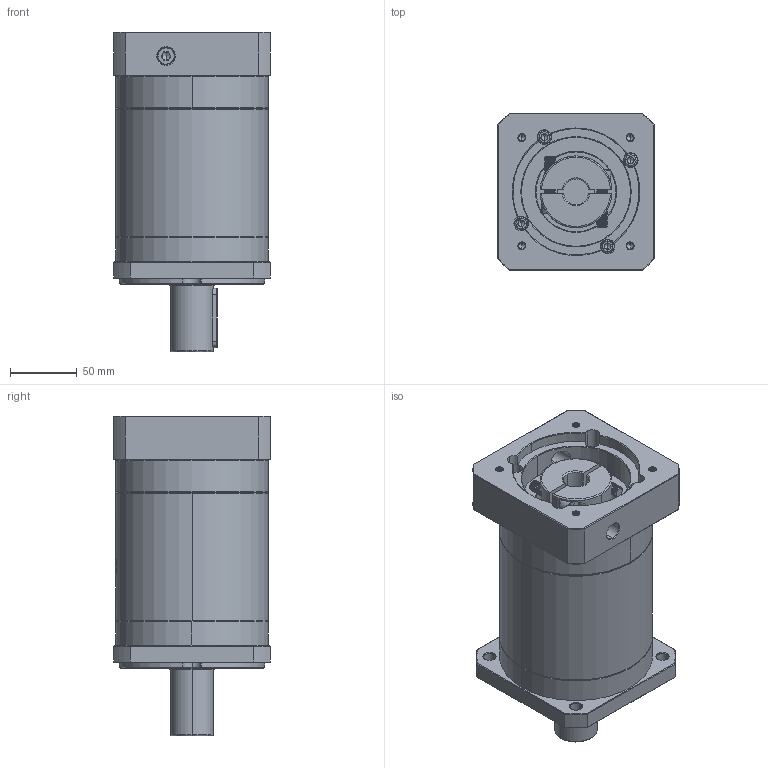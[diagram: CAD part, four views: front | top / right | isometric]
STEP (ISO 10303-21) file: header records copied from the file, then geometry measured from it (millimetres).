
FILE_DESCRIPTION (( 'STEP AP214' ), '1' );
FILE_NAME ('ZF120A-D32-L3-P2-19-95-115-M6.step', '2023-08-27T04:47:04', ( '' ), ( '' ), 'SwSTEP 2.0', 'SolidWorks 2016', '' );
FILE_SCHEMA (( 'AUTOMOTIVE_DESIGN' ));
Length unit declared in the file: millimetre
Products named in the file (1): ZF120A-D32-L3-P2-19-95-115-M6
Bounding box: 118 x 118 x 240.5 mm (x, y, z)
Volume: 1972356 mm3; surface area: 179547.4 mm2
Topology: 6 solids, 6 shells, 2235 faces, 5956 edges, 3822 vertices
Faces by surface type: plane 1034, bspline 439, cylinder 421, cone 341
Entity records: 123132 total; most frequent: CARTESIAN_POINT 48327, ORIENTED_EDGE 11852, DIRECTION 8606, EDGE_CURVE 5926, VERTEX_POINT 3822, LINE 3100, VECTOR 3100, AXIS2_PLACEMENT_3D 2753
